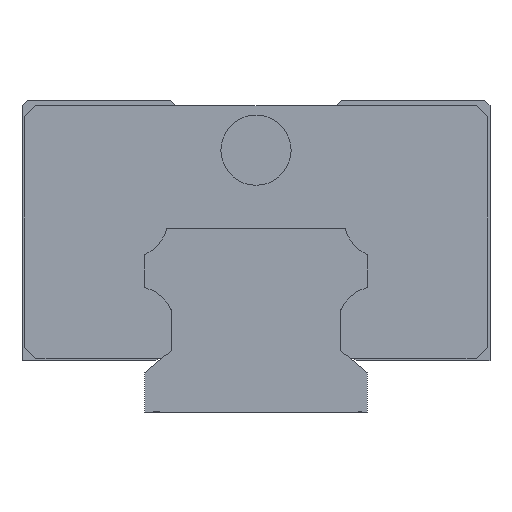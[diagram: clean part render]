
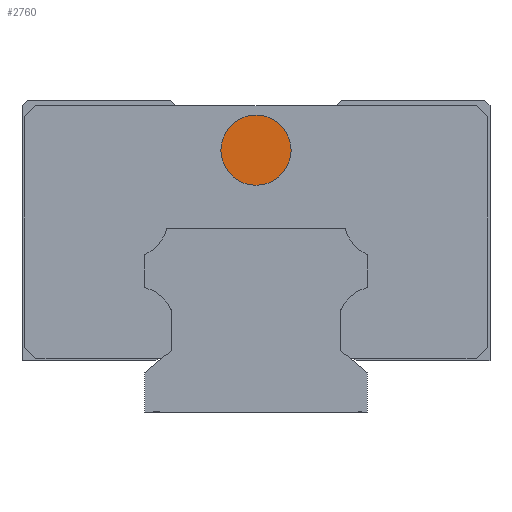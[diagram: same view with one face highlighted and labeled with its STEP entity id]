
A CAD part, left-side view. The second image highlights one B-rep face of the part: STEP entity #2760.
In plain terms, the highlighted planar face has unit normal (-1, 0, 0).
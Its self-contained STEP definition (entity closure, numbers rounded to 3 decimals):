
#833 = AXIS2_PLACEMENT_3D ( 'NONE', #3139, #1883, #4483 ) ;
#1327 = CARTESIAN_POINT ( 'NONE',  ( -23.35, 0., 23.5 ) ) ;
#1690 = PLANE ( 'NONE',  #4423 ) ;
#1761 = CIRCLE ( 'NONE', #833, 3.15 ) ;
#1777 = FACE_OUTER_BOUND ( 'NONE', #2250, .T. ) ;
#1883 = DIRECTION ( 'NONE',  ( 1., 0., 0. ) ) ;
#2092 = VERTEX_POINT ( 'NONE', #3247 ) ;
#2250 = EDGE_LOOP ( 'NONE', ( #2701, #5199 ) ) ;
#2301 = CARTESIAN_POINT ( 'NONE',  ( -23.35, 0., 26.65 ) ) ;
#2647 = CIRCLE ( 'NONE', #5509, 3.15 ) ;
#2656 = DIRECTION ( 'NONE',  ( 0., 0., -1. ) ) ;
#2701 = ORIENTED_EDGE ( 'NONE', *, *, #3377, .F. ) ;
#2760 = ADVANCED_FACE ( 'NONE', ( #1777 ), #1690, .T. ) ;
#3061 = DIRECTION ( 'NONE',  ( -1., 0., 0. ) ) ;
#3139 = CARTESIAN_POINT ( 'NONE',  ( -23.35, 0., 23.5 ) ) ;
#3247 = CARTESIAN_POINT ( 'NONE',  ( -23.35, 0., 20.35 ) ) ;
#3377 = EDGE_CURVE ( 'NONE', #4857, #2092, #2647, .T. ) ;
#3430 = CARTESIAN_POINT ( 'NONE',  ( -23.35, 0., 23.5 ) ) ;
#3839 = DIRECTION ( 'NONE',  ( 1., 0., 0. ) ) ;
#4423 = AXIS2_PLACEMENT_3D ( 'NONE', #1327, #3061, #2656 ) ;
#4483 = DIRECTION ( 'NONE',  ( 0., 0., -1. ) ) ;
#4630 = EDGE_CURVE ( 'NONE', #2092, #4857, #1761, .T. ) ;
#4857 = VERTEX_POINT ( 'NONE', #2301 ) ;
#5135 = DIRECTION ( 'NONE',  ( 0., 0., -1. ) ) ;
#5199 = ORIENTED_EDGE ( 'NONE', *, *, #4630, .F. ) ;
#5509 = AXIS2_PLACEMENT_3D ( 'NONE', #3430, #3839, #5135 ) ;
